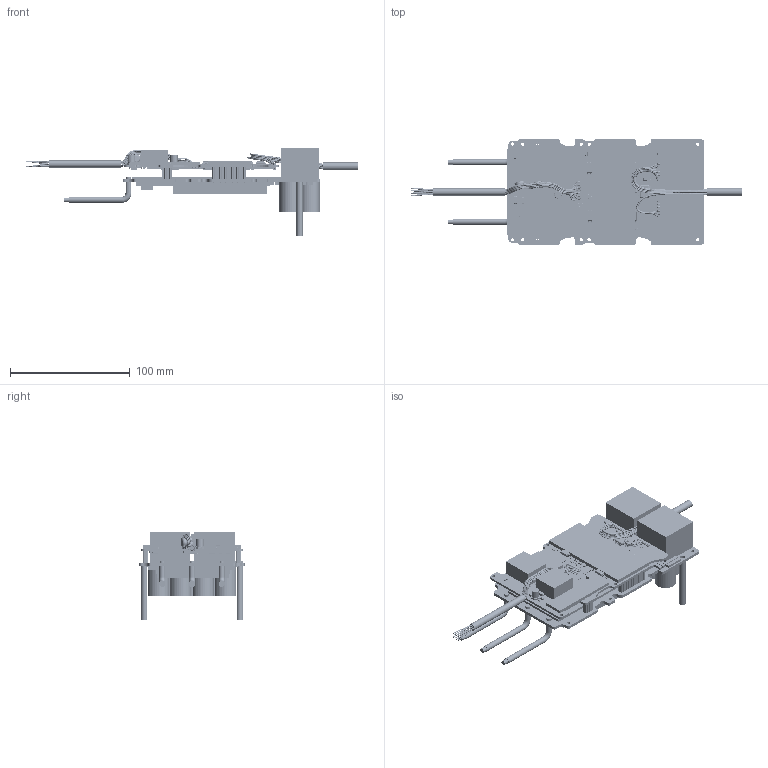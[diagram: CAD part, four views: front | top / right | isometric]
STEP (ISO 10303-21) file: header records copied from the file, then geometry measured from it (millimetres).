
FILE_DESCRIPTION((''),'2;1');
FILE_NAME('HW5122-GLB','2024-10-17T10:24:16',('221126'),(''),'CREO PARAMETRIC BY PTC INC, 2021284','CREO PARAMETRIC BY PTC INC, 2021284','');
FILE_SCHEMA(('CONFIG_CONTROL_DESIGN'));
Products named in the file (1): HW5122-GLB
Bounding box: 277.56 x 88 x 73.7 mm (x, y, z)
Volume: 281407.6 mm3; surface area: 96153.8 mm2
Topology: 9 solids, 44 shells, 13997 faces, 36571 edges, 23185 vertices
Faces by surface type: plane 6455, extrusion 4321, cylinder 2319, sphere 526, bspline 220, torus 146, cone 10
Entity records: 678662 total; most frequent: CARTESIAN_POINT 352312, ORIENTED_EDGE 72114, DIRECTION 55021, EDGE_CURVE 36057, VECTOR 26037, VERTEX_POINT 23185, LINE 21716, EDGE_LOOP 15556
